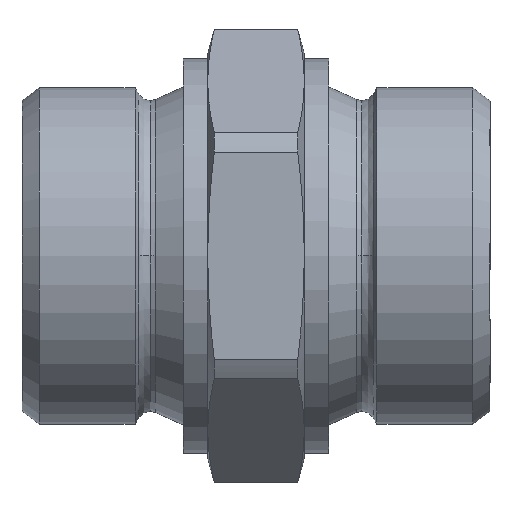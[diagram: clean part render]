
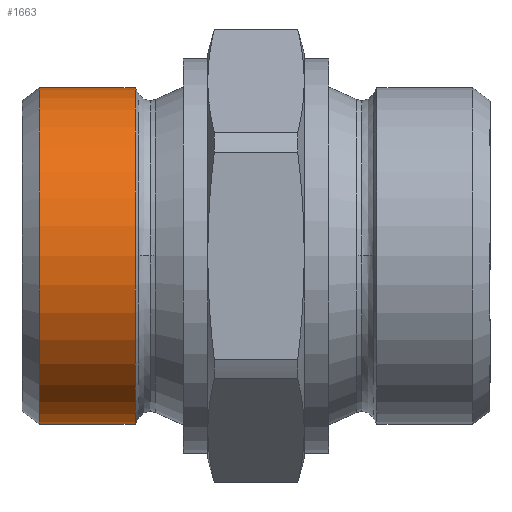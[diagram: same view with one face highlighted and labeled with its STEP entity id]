
A CAD part, top view. The second image highlights one B-rep face of the part: STEP entity #1663.
In plain terms, the highlighted cylindrical face has radius 20.865 mm (diameter 41.73 mm), a partial arc.
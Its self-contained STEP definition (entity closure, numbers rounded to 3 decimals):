
#997=CARTESIAN_POINT('',(0.,-20.865,26.857));
#998=VERTEX_POINT('',#997);
#999=CARTESIAN_POINT('',(0.,-20.865,14.985));
#1000=VERTEX_POINT('',#999);
#1001=CARTESIAN_POINT('',(0.,-20.865,26.857));
#1002=DIRECTION('',(0.0,0.0,-1.0));
#1003=VECTOR('',#1002,11.872);
#1004=LINE('',#1001,#1003);
#1005=EDGE_CURVE('',#998,#1000,#1004,.T.);
#1007=CARTESIAN_POINT('',(0.,20.865,26.857));
#1008=VERTEX_POINT('',#1007);
#1016=CARTESIAN_POINT('',(0.,20.865,14.985));
#1017=VERTEX_POINT('',#1016);
#1018=CARTESIAN_POINT('',(0.,20.865,14.985));
#1019=DIRECTION('',(0.0,0.0,1.0));
#1020=VECTOR('',#1019,11.872);
#1021=LINE('',#1018,#1020);
#1022=EDGE_CURVE('',#1017,#1008,#1021,.T.);
#1461=CARTESIAN_POINT('',(0.,0.,14.985));
#1462=DIRECTION('',(0.0,0.0,-1.0));
#1463=DIRECTION('',(0.0,-1.0,0.0));
#1464=AXIS2_PLACEMENT_3D('',#1461,#1462,#1463);
#1465=CIRCLE('',#1464,20.865);
#1466=EDGE_CURVE('',#1017,#1000,#1465,.T.);
#1640=CARTESIAN_POINT('',(0.,0.,26.857));
#1641=DIRECTION('',(0.0,0.0,-1.0));
#1642=DIRECTION('',(0.0,-1.0,0.0));
#1643=AXIS2_PLACEMENT_3D('',#1640,#1641,#1642);
#1644=CIRCLE('',#1643,20.865);
#1645=EDGE_CURVE('',#1008,#998,#1644,.T.);
#1652=CARTESIAN_POINT('',(0.,0.,20.921));
#1653=DIRECTION('',(0.,0.,-1.0));
#1654=DIRECTION('',(0.0,-1.0,0.0));
#1655=AXIS2_PLACEMENT_3D('',#1652,#1653,#1654);
#1656=CYLINDRICAL_SURFACE('',#1655,20.865);
#1657=ORIENTED_EDGE('',*,*,#1005,.T.);
#1658=ORIENTED_EDGE('',*,*,#1466,.F.);
#1659=ORIENTED_EDGE('',*,*,#1022,.T.);
#1660=ORIENTED_EDGE('',*,*,#1645,.T.);
#1661=EDGE_LOOP('',(#1657,#1658,#1659,#1660));
#1662=FACE_OUTER_BOUND('',#1661,.T.);
#1663=ADVANCED_FACE('',(#1662),#1656,.T.);
